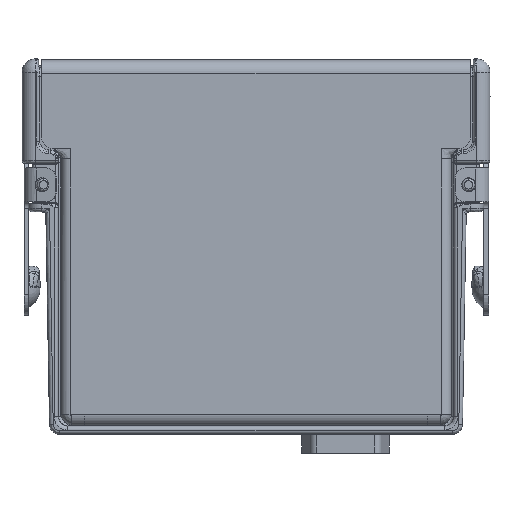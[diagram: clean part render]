
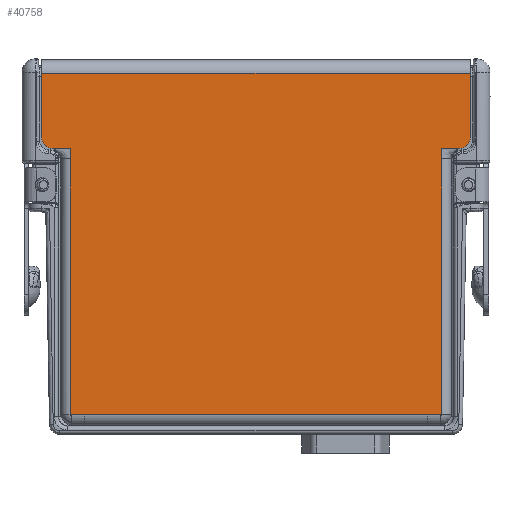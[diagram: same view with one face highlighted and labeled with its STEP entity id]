
A CAD part, left-side view. The second image highlights one B-rep face of the part: STEP entity #40758.
In plain terms, the highlighted planar face has unit normal (-1, 0, 0).
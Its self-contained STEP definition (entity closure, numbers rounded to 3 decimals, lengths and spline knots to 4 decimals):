
#12134=DIRECTION('',(0.,-1.,0.));
#12135=VECTOR('',#12134,3.179);
#12136=CARTESIAN_POINT('',(-0.4475,1.5895,2.676));
#12137=LINE('',#12136,#12135);
#12340=CARTESIAN_POINT('',(-0.4475,1.5095,2.2));
#12341=DIRECTION('',(-1.,0.,0.));
#12342=DIRECTION('',(0.,1.,0.));
#12343=AXIS2_PLACEMENT_3D('',#12340,#12341,#12342);
#12345=DIRECTION('',(0.,-1.,0.));
#12346=VECTOR('',#12345,0.133);
#12347=CARTESIAN_POINT('',(-0.4475,1.5095,2.12));
#12348=LINE('',#12347,#12346);
#12357=DIRECTION('',(0.,0.,-1.));
#12358=VECTOR('',#12357,0.476);
#12359=CARTESIAN_POINT('',(-0.4475,1.5895,2.676));
#12360=LINE('',#12359,#12358);
#12361=DIRECTION('',(0.,0.,1.));
#12362=VECTOR('',#12361,0.476);
#12363=CARTESIAN_POINT('',(-0.4475,-1.5895,2.2));
#12364=LINE('',#12363,#12362);
#12365=DIRECTION('',(0.,0.,1.));
#12366=VECTOR('',#12365,0.079);
#12367=CARTESIAN_POINT('',(-0.4475,-1.3765,2.041));
#12368=LINE('',#12367,#12366);
#12369=DIRECTION('',(0.,-1.,0.));
#12370=VECTOR('',#12369,0.105);
#12371=CARTESIAN_POINT('',(-0.4475,-1.2715,0.146));
#12372=LINE('',#12371,#12370);
#12373=DIRECTION('',(0.,-1.,0.));
#12374=VECTOR('',#12373,0.105);
#12375=CARTESIAN_POINT('',(-0.4475,1.3765,0.146));
#12376=LINE('',#12375,#12374);
#12377=DIRECTION('',(0.,0.,1.));
#12378=VECTOR('',#12377,0.079);
#12379=CARTESIAN_POINT('',(-0.4475,1.3765,2.041));
#12380=LINE('',#12379,#12378);
#12398=CARTESIAN_POINT('',(-0.4475,-1.5095,2.2));
#12399=DIRECTION('',(-1.,0.,0.));
#12400=DIRECTION('',(0.,0.,-1.));
#12401=AXIS2_PLACEMENT_3D('',#12398,#12399,#12400);
#12411=DIRECTION('',(0.,-1.,0.));
#12412=VECTOR('',#12411,0.133);
#12413=CARTESIAN_POINT('',(-0.4475,-1.3765,2.12));
#12414=LINE('',#12413,#12412);
#12446=DIRECTION('',(0.,0.,1.));
#12447=VECTOR('',#12446,1.895);
#12448=CARTESIAN_POINT('',(-0.4475,-1.3765,0.146));
#12449=LINE('',#12448,#12447);
#12637=DIRECTION('',(0.,-1.,0.));
#12638=VECTOR('',#12637,2.543);
#12639=CARTESIAN_POINT('',(-0.4475,1.2715,0.146));
#12640=LINE('',#12639,#12638);
#13739=DIRECTION('',(0.,0.,1.));
#13740=VECTOR('',#13739,1.895);
#13741=CARTESIAN_POINT('',(-0.4475,1.3765,0.146));
#13742=LINE('',#13741,#13740);
#24095=CARTESIAN_POINT('',(-0.4475,-1.5895,2.676));
#24096=VERTEX_POINT('',#24095);
#24097=CARTESIAN_POINT('',(-0.4475,1.5895,2.676));
#24098=VERTEX_POINT('',#24097);
#24127=CARTESIAN_POINT('',(-0.4475,1.2715,0.146));
#24128=CARTESIAN_POINT('',(-0.4475,-1.2715,0.146));
#24129=VERTEX_POINT('',#24127);
#24130=VERTEX_POINT('',#24128);
#24139=CARTESIAN_POINT('',(-0.4475,-1.3765,0.146));
#24140=VERTEX_POINT('',#24139);
#24151=CARTESIAN_POINT('',(-0.4475,1.3765,0.146));
#24152=VERTEX_POINT('',#24151);
#24200=CARTESIAN_POINT('',(-0.4475,1.5095,2.12));
#24202=VERTEX_POINT('',#24200);
#24205=CARTESIAN_POINT('',(-0.4475,1.5895,2.2));
#24206=VERTEX_POINT('',#24205);
#24208=CARTESIAN_POINT('',(-0.4475,-1.5895,2.2));
#24210=VERTEX_POINT('',#24208);
#24213=CARTESIAN_POINT('',(-0.4475,-1.5095,2.12));
#24214=VERTEX_POINT('',#24213);
#24227=CARTESIAN_POINT('',(-0.4475,-1.3765,2.041));
#24228=VERTEX_POINT('',#24227);
#24231=CARTESIAN_POINT('',(-0.4475,-1.3765,2.12));
#24232=VERTEX_POINT('',#24231);
#24239=CARTESIAN_POINT('',(-0.4475,1.3765,2.041));
#24240=CARTESIAN_POINT('',(-0.4475,1.3765,2.12));
#24241=VERTEX_POINT('',#24239);
#24242=VERTEX_POINT('',#24240);
#40726=CARTESIAN_POINT('',(-0.4475,0.,1.421));
#40727=DIRECTION('',(-1.,0.,0.));
#40728=DIRECTION('',(0.,1.,0.));
#40729=AXIS2_PLACEMENT_3D('',#40726,#40727,#40728);
#40730=PLANE('',#40729);
#40731=ORIENTED_EDGE('',*,*,#40707,.F.);
#40733=ORIENTED_EDGE('',*,*,#40732,.F.);
#40734=ORIENTED_EDGE('',*,*,#40499,.T.);
#40736=ORIENTED_EDGE('',*,*,#40735,.F.);
#40738=ORIENTED_EDGE('',*,*,#40737,.F.);
#40740=ORIENTED_EDGE('',*,*,#40739,.F.);
#40742=ORIENTED_EDGE('',*,*,#40741,.F.);
#40744=ORIENTED_EDGE('',*,*,#40743,.F.);
#40746=ORIENTED_EDGE('',*,*,#40745,.F.);
#40748=ORIENTED_EDGE('',*,*,#40747,.F.);
#40750=ORIENTED_EDGE('',*,*,#40749,.F.);
#40752=ORIENTED_EDGE('',*,*,#40751,.T.);
#40754=ORIENTED_EDGE('',*,*,#40753,.T.);
#40755=ORIENTED_EDGE('',*,*,#40718,.F.);
#40756=EDGE_LOOP('',(#40731,#40733,#40734,#40736,#40738,#40740,#40742,#40744,
#40746,#40748,#40750,#40752,#40754,#40755));
#40757=FACE_OUTER_BOUND('',#40756,.F.);
#40758=ADVANCED_FACE('',(#40757),#40730,.T.);
#12344=CIRCLE('',#12343,0.08);
#12402=CIRCLE('',#12401,0.08);
#40499=EDGE_CURVE('',#24098,#24096,#12137,.T.);
#40707=EDGE_CURVE('',#24206,#24202,#12344,.T.);
#40718=EDGE_CURVE('',#24202,#24242,#12348,.T.);
#40732=EDGE_CURVE('',#24098,#24206,#12360,.T.);
#40735=EDGE_CURVE('',#24210,#24096,#12364,.T.);
#40737=EDGE_CURVE('',#24214,#24210,#12402,.T.);
#40739=EDGE_CURVE('',#24232,#24214,#12414,.T.);
#40741=EDGE_CURVE('',#24228,#24232,#12368,.T.);
#40743=EDGE_CURVE('',#24140,#24228,#12449,.T.);
#40745=EDGE_CURVE('',#24130,#24140,#12372,.T.);
#40747=EDGE_CURVE('',#24129,#24130,#12640,.T.);
#40749=EDGE_CURVE('',#24152,#24129,#12376,.T.);
#40751=EDGE_CURVE('',#24152,#24241,#13742,.T.);
#40753=EDGE_CURVE('',#24241,#24242,#12380,.T.);
